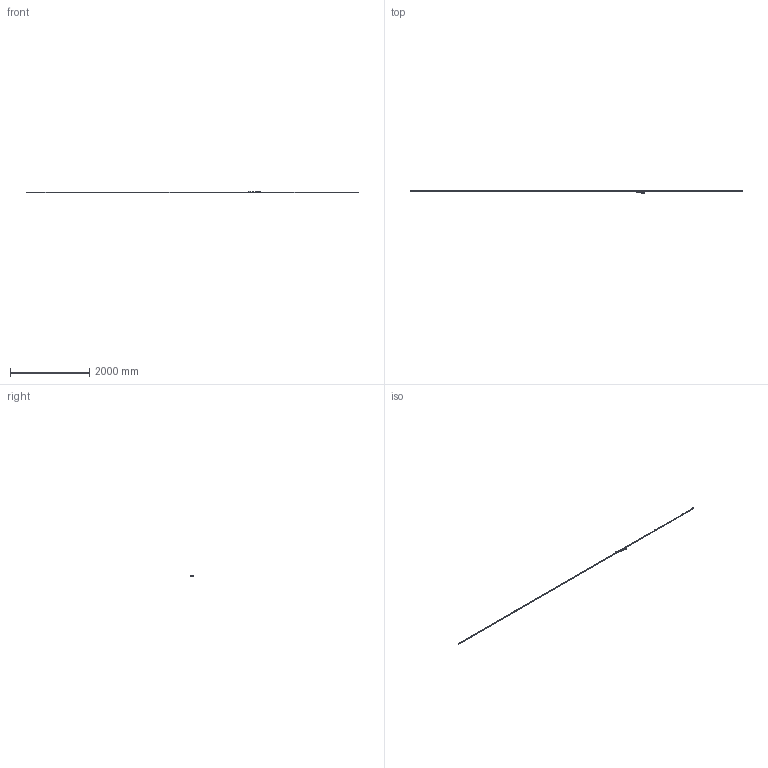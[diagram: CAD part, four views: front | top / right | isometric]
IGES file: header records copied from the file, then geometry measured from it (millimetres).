
Start section: Elysium IGES Interface
Global section: file name: 90H\\Utsu119s\kiyo_cad\data\3D\ABS ST1300\HP掲載用_201803\ST1300-Dタイプ\PKG\ST1300-8200D.igs; native system: Creo Elements/Direct Modeling 18.1B  29-Sep-2012; preprocessor: Creo Element/Direct IGES_3D V2.2; author: Unknown; organization: Unknown; date: 20180301.154135; units: millimetre
Bounding box: 8373 x 88.3 x 30.1 mm (x, y, z)
Volume: 726754 mm3; surface area: 455222 mm2
Topology: 3 solids, 10 shells, 5875 faces, 15780 edges, 10174 vertices
Faces by surface type: bspline 5875
